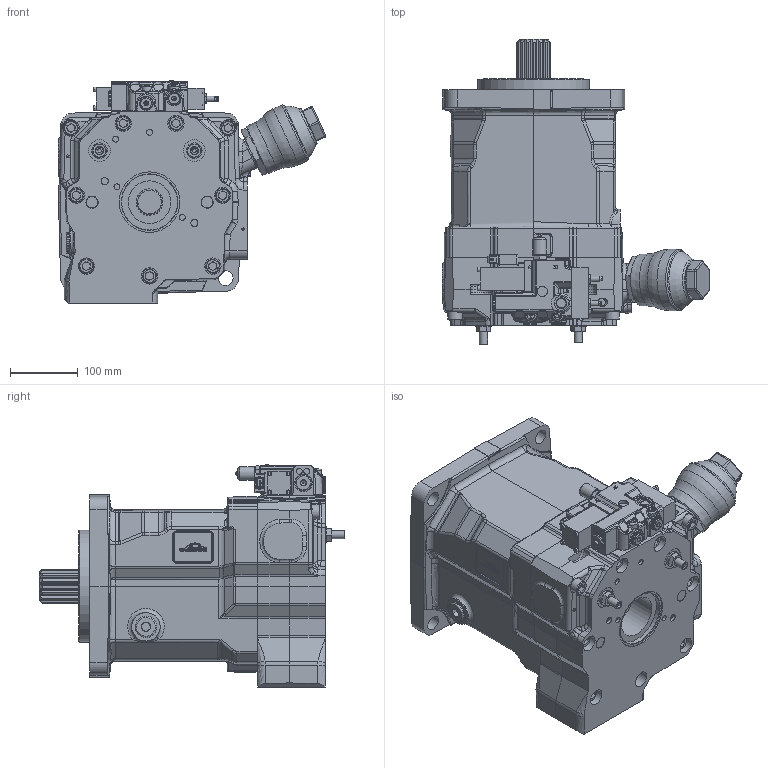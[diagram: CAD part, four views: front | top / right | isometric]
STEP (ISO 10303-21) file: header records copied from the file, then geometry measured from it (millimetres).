
FILE_DESCRIPTION(/* description */ (''),/* implementation_level */ '2;1');
FILE_NAME(/* name */ '2578055003m355.stp',/* time_stamp */ '2012-03-30T14:19:12+02:00',/* author */ (''),/* organization */ (''),/* preprocessor_version */ 'ST-DEVELOPER v11',/* originating_system */ 'SIEMENS PLM Software NX 7.5',/* authorisation */ '');
FILE_SCHEMA (('AUTOMOTIVE_DESIGN { 1 0 10303 214 1 1 1 1 }'));
Products named in the file (1): 2578055003m355
Bounding box: 395.31 x 451.26 x 327.92 mm (x, y, z)
Volume: 21507958.9 mm3; surface area: 903325.6 mm2
Topology: 7 solids, 10 shells, 2755 faces, 6694 edges, 4134 vertices
Faces by surface type: plane 1004, cylinder 721, bspline 380, cone 253, torus 127, extrusion 122, revolution 102, sphere 46
Full cylindrical faces by diameter (mm): 2 x1, 4 x2, 5 x7, 5.5 x1, 6 x5, 6.8 x2, 6.985 x4, 7 x4, 8 x5, 8.782 x4, 9 x9, 9.2 x3, 10 x2, 10.579 x3, 11 x4, 12 x12, 12.376 x7, 12.5 x1, 13 x4, 14 x9, 14.376 x9, 15 x3, 15.5 x9, 15.8 x1, 18.8 x8, 20 x2, 21 x14, 22 x4, 23 x2, 23.8 x2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
Entity records: 92971 total; most frequent: CARTESIAN_POINT 33030, ORIENTED_EDGE 12378, DIRECTION 11871, EDGE_CURVE 6189, AXIS2_PLACEMENT_3D 4574, VERTEX_POINT 3979, EDGE_LOOP 3300, ADVANCED_FACE 2755
